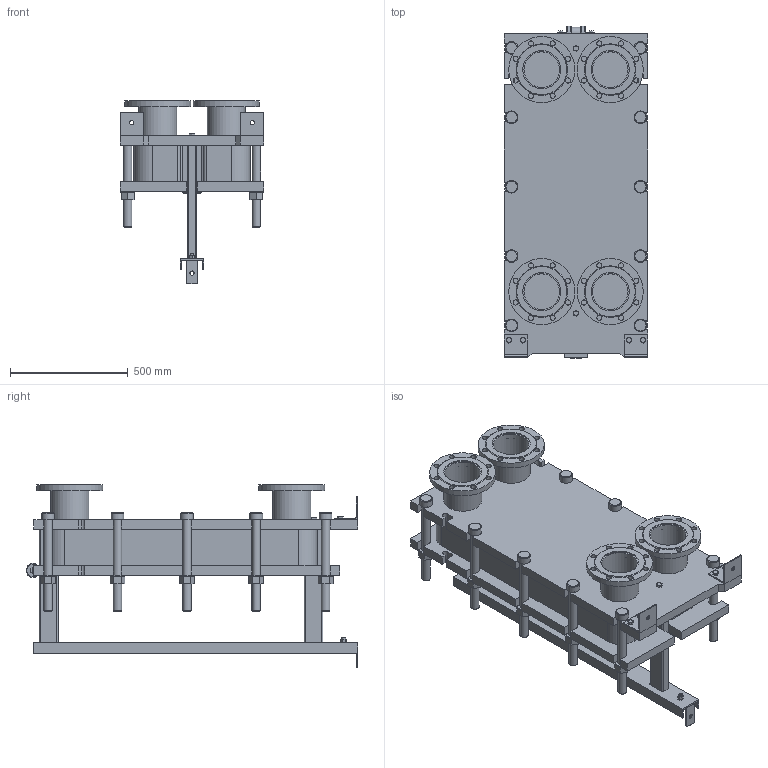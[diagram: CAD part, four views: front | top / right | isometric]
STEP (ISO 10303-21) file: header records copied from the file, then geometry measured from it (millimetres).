
FILE_DESCRIPTION(/* description */ (''),/* implementation_level */ '2;1');
FILE_NAME(/* name */ 'C:\Users\zhuro\Desktop\ENCO\TO\ЭН-041\ЭН-0,5-041-45-1.stp',/* time_stamp */ '2022-06-06T10:52:24+03:00',/* author */ ('zhuro'),/* organization */ (''),/* preprocessor_version */ 'ST-DEVELOPER v18.1',/* originating_system */ 'Autodesk Inventor 2022',/* authorisation */ '');
FILE_SCHEMA (('AUTOMOTIVE_DESIGN { 1 0 10303 214 3 1 1 }'));
Length unit declared in the file: millimetre
Products named in the file (1): ЭН-0,5-041-45-1
Bounding box: 610 x 1406.5 x 777.5 mm (x, y, z)
Volume: 163926548.7 mm3; surface area: 7811806.2 mm2
Topology: 52 solids, 52 shells, 711 faces, 1696 edges, 1094 vertices
Faces by surface type: plane 487, cylinder 177, cone 41, torus 6
Full cylindrical faces by diameter (mm): 8 x4, 10 x2, 16 x8, 18 x3, 22 x32, 36 x24, 50 x1, 54 x10, 60 x12, 151 x4, 161 x8, 280 x4
Entity records: 22667 total; most frequent: CARTESIAN_POINT 5230, DIRECTION 3644, ORIENTED_EDGE 3392, EDGE_CURVE 1696, AXIS2_PLACEMENT_3D 1272, LINE 1100, VECTOR 1100, VERTEX_POINT 1094
